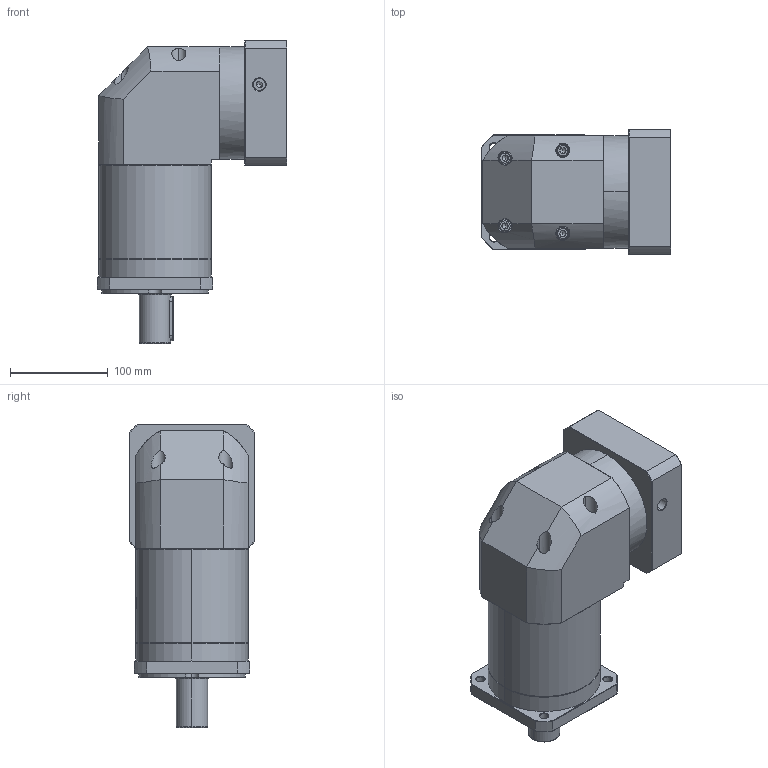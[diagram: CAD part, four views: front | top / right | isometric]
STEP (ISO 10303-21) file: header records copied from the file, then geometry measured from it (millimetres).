
FILE_DESCRIPTION (( 'STEP AP214' ), '1' );
FILE_NAME ('ZFR120A-D32-L3-P2-19-110-145-M8.step', '2023-08-27T08:10:31', ( '' ), ( '' ), 'SwSTEP 2.0', 'SolidWorks 2016', '' );
FILE_SCHEMA (( 'AUTOMOTIVE_DESIGN' ));
Length unit declared in the file: millimetre
Products named in the file (1): ZFR120A-D32-L3-P2-19-110-145-M8
Bounding box: 193.9 x 128 x 310 mm (x, y, z)
Volume: 3587255.1 mm3; surface area: 272923.7 mm2
Topology: 6 solids, 6 shells, 2265 faces, 5968 edges, 3808 vertices
Faces by surface type: plane 1061, cylinder 434, bspline 425, cone 337, torus 8
Entity records: 124376 total; most frequent: CARTESIAN_POINT 49050, ORIENTED_EDGE 11876, DIRECTION 8604, EDGE_CURVE 5938, VERTEX_POINT 3808, LINE 3158, VECTOR 3158, AXIS2_PLACEMENT_3D 2723
